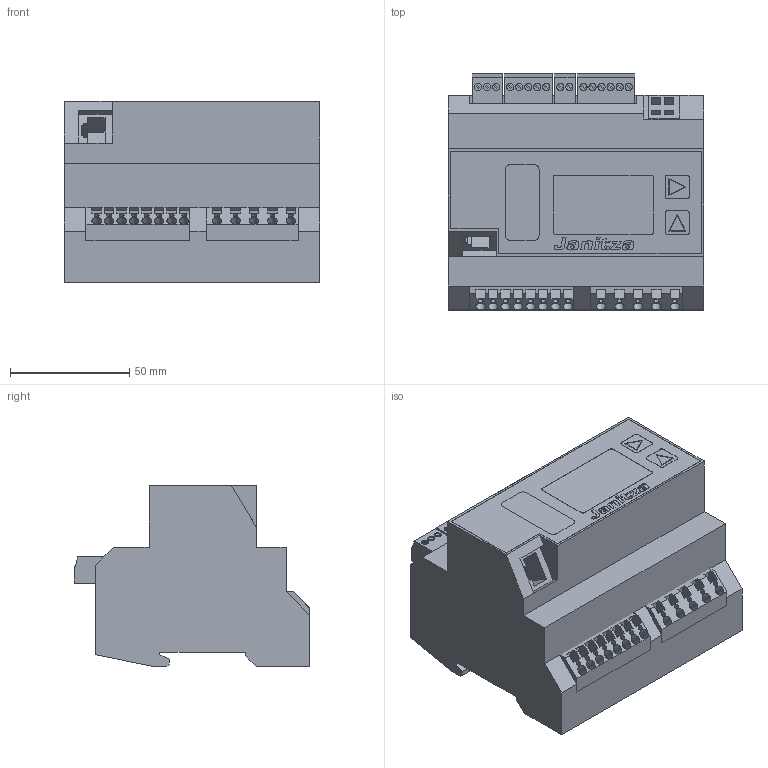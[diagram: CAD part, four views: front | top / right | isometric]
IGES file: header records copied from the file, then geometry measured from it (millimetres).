
Global section: file name: No Iges File Name specified; native system: AutoDesk Inventor R6.1; preprocessor: AutoDesk Inventor Iges Exporter R6.1; author: No Author specified; organization: No Organization specified; date: 20130424.203523; units: millimetre
Bounding box: 107 x 99 x 76 mm (x, y, z)
Surface area: 69237.8 mm2 (no closed solid volume)
Topology: 0 solids, 0 shells, 591 faces, 3278 edges, 3223 vertices
Faces by surface type: plane 442, bspline 83, revolution 66
